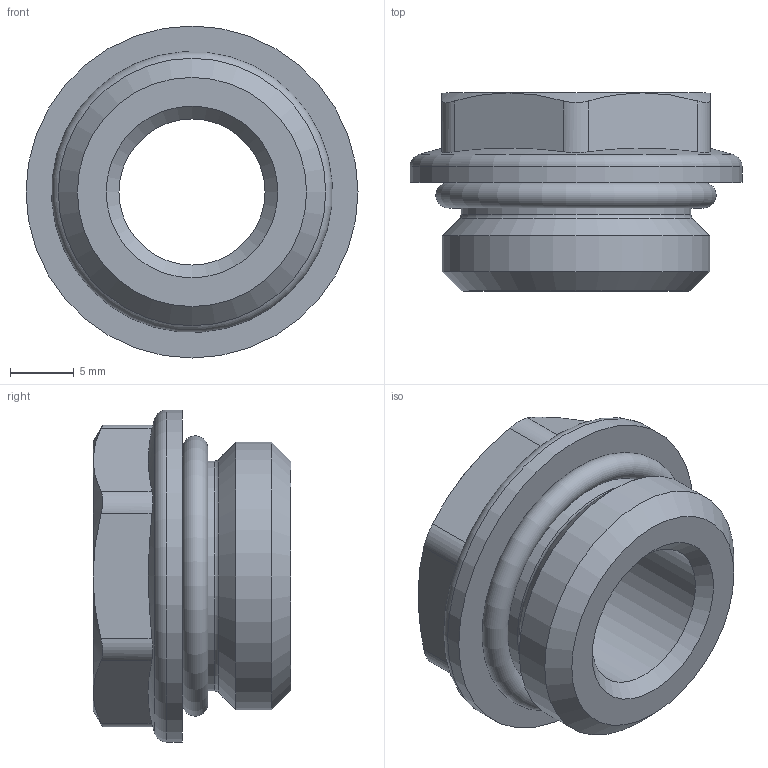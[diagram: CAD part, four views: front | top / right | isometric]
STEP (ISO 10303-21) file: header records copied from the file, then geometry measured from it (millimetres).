
FILE_DESCRIPTION(('STEP AP203'), '1');
FILE_NAME('覆.302638.006.000 捘 - VTr.585.N.0402', '2024-06-10T07:40:55', ('User'), ('Vesta'), 'C3D Converter', 'C3D Toolkit', '');
FILE_SCHEMA(('CONFIG_CONTROL_DESIGN'));
Length unit declared in the file: millimetre
Products named in the file (3): ВР.302638.006.000 СБ; ВР.753128.021
Assembly tree (2 placements, depth 2):
  ВР.302638.006.000 СБ
    ВР.753128.021
    (unnamed)
Bounding box: 26 x 15.5 x 26 mm (x, y, z)
Volume: 4029.9 mm3; surface area: 2805.3 mm2
Topology: 2 solids, 2 shells, 89 faces, 232 edges, 149 vertices
Faces by surface type: extrusion 34, plane 28, cylinder 11, cone 11, torus 5
Full cylindrical faces by diameter (mm): 11.445 x1, 13.5 x1, 18 x1, 20.955 x1, 26 x1
Entity records: 3541 total; most frequent: CARTESIAN_POINT 1461, ORIENTED_EDGE 432, DIRECTION 290, EDGE_CURVE 216, VERTEX_POINT 148, B_SPLINE_CURVE_WITH_KNOTS 133, VECTOR 128, EDGE_LOOP 108
